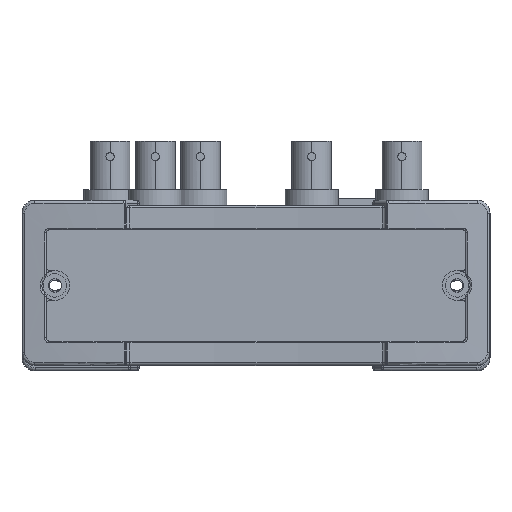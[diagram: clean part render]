
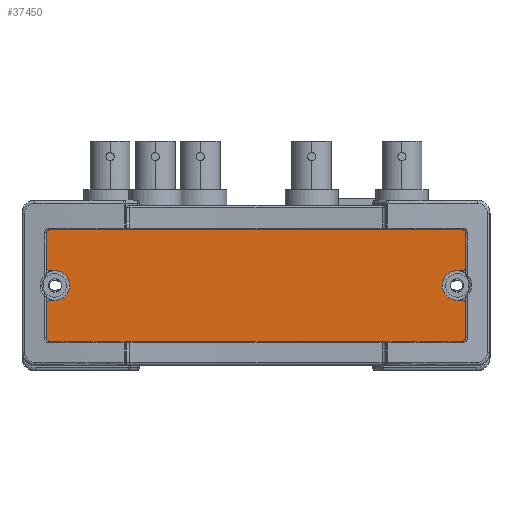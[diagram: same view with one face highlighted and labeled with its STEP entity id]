
A CAD part, front view. The second image highlights one B-rep face of the part: STEP entity #37450.
In plain terms, the highlighted planar face has unit normal (0, -1, 0).
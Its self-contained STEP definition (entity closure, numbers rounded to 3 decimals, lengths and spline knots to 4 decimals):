
#3501=DIRECTION('',(-1.,0.,0.));
#3502=VECTOR('',#3501,3.89);
#3503=CARTESIAN_POINT('',(3.395,-0.395,-0.423));
#3504=LINE('',#3503,#3502);
#3505=CARTESIAN_POINT('',(-0.495,-0.395,-0.393));
#3506=DIRECTION('',(0.,-1.,0.));
#3507=DIRECTION('',(-1.,0.,0.));
#3508=AXIS2_PLACEMENT_3D('',#3505,#3506,#3507);
#3510=DIRECTION('',(0.,0.,1.));
#3511=VECTOR('',#3510,0.325);
#3512=CARTESIAN_POINT('',(-0.525,-0.395,-0.393));
#3513=LINE('',#3512,#3511);
#3514=CARTESIAN_POINT('',(-0.495,-0.395,-0.068));
#3515=DIRECTION('',(0.,1.,0.));
#3516=DIRECTION('',(-1.,0.,0.));
#3517=AXIS2_PLACEMENT_3D('',#3514,#3515,#3516);
#3519=DIRECTION('',(1.,0.,0.));
#3520=VECTOR('',#3519,0.05);
#3521=CARTESIAN_POINT('',(-0.495,-0.395,-0.038));
#3522=LINE('',#3521,#3520);
#3523=CARTESIAN_POINT('',(-0.445,-0.395,0.102));
#3524=DIRECTION('',(0.,-1.,0.));
#3525=DIRECTION('',(0.,0.,-1.));
#3526=AXIS2_PLACEMENT_3D('',#3523,#3524,#3525);
#3528=DIRECTION('',(-1.,0.,0.));
#3529=VECTOR('',#3528,0.05);
#3530=CARTESIAN_POINT('',(-0.445,-0.395,0.242));
#3531=LINE('',#3530,#3529);
#3532=CARTESIAN_POINT('',(-0.495,-0.395,0.272));
#3533=DIRECTION('',(0.,-1.,0.));
#3534=DIRECTION('',(-1.,0.,0.));
#3535=AXIS2_PLACEMENT_3D('',#3532,#3533,#3534);
#3537=DIRECTION('',(0.,0.,1.));
#3538=VECTOR('',#3537,0.325);
#3539=CARTESIAN_POINT('',(-0.525,-0.395,0.272));
#3540=LINE('',#3539,#3538);
#3541=CARTESIAN_POINT('',(-0.495,-0.395,0.597));
#3542=DIRECTION('',(0.,-1.,0.));
#3543=DIRECTION('',(0.,0.,1.));
#3544=AXIS2_PLACEMENT_3D('',#3541,#3542,#3543);
#3546=DIRECTION('',(1.,0.,0.));
#3547=VECTOR('',#3546,3.89);
#3548=CARTESIAN_POINT('',(-0.495,-0.395,0.627));
#3549=LINE('',#3548,#3547);
#3550=CARTESIAN_POINT('',(3.395,-0.395,0.597));
#3551=DIRECTION('',(0.,-1.,0.));
#3552=DIRECTION('',(1.,0.,0.));
#3553=AXIS2_PLACEMENT_3D('',#3550,#3551,#3552);
#3555=DIRECTION('',(0.,0.,-1.));
#3556=VECTOR('',#3555,0.325);
#3557=CARTESIAN_POINT('',(3.425,-0.395,0.597));
#3558=LINE('',#3557,#3556);
#3559=CARTESIAN_POINT('',(3.395,-0.395,0.272));
#3560=DIRECTION('',(0.,1.,0.));
#3561=DIRECTION('',(1.,0.,0.));
#3562=AXIS2_PLACEMENT_3D('',#3559,#3560,#3561);
#3564=DIRECTION('',(-1.,0.,0.));
#3565=VECTOR('',#3564,0.05);
#3566=CARTESIAN_POINT('',(3.395,-0.395,0.242));
#3567=LINE('',#3566,#3565);
#3568=CARTESIAN_POINT('',(3.345,-0.395,0.102));
#3569=DIRECTION('',(0.,-1.,0.));
#3570=DIRECTION('',(0.,0.,1.));
#3571=AXIS2_PLACEMENT_3D('',#3568,#3569,#3570);
#3573=DIRECTION('',(1.,0.,0.));
#3574=VECTOR('',#3573,0.05);
#3575=CARTESIAN_POINT('',(3.345,-0.395,-0.038));
#3576=LINE('',#3575,#3574);
#3577=CARTESIAN_POINT('',(3.395,-0.395,-0.068));
#3578=DIRECTION('',(0.,-1.,0.));
#3579=DIRECTION('',(1.,0.,0.));
#3580=AXIS2_PLACEMENT_3D('',#3577,#3578,#3579);
#3582=DIRECTION('',(0.,0.,-1.));
#3583=VECTOR('',#3582,0.325);
#3584=CARTESIAN_POINT('',(3.425,-0.395,-0.068));
#3585=LINE('',#3584,#3583);
#3586=CARTESIAN_POINT('',(3.395,-0.395,-0.393));
#3587=DIRECTION('',(0.,-1.,0.));
#3588=DIRECTION('',(0.,0.,-1.));
#3589=AXIS2_PLACEMENT_3D('',#3586,#3587,#3588);
#32381=CARTESIAN_POINT('',(3.395,-0.395,-0.423));
#32382=CARTESIAN_POINT('',(-0.495,-0.395,-0.423));
#32383=VERTEX_POINT('',#32381);
#32384=VERTEX_POINT('',#32382);
#32385=CARTESIAN_POINT('',(-0.525,-0.395,-0.393));
#32386=CARTESIAN_POINT('',(-0.525,-0.395,-0.068));
#32387=VERTEX_POINT('',#32385);
#32388=VERTEX_POINT('',#32386);
#32389=CARTESIAN_POINT('',(-0.525,-0.395,0.272));
#32390=CARTESIAN_POINT('',(-0.525,-0.395,0.597));
#32391=VERTEX_POINT('',#32389);
#32392=VERTEX_POINT('',#32390);
#32393=CARTESIAN_POINT('',(-0.495,-0.395,0.627));
#32394=CARTESIAN_POINT('',(3.395,-0.395,0.627));
#32395=VERTEX_POINT('',#32393);
#32396=VERTEX_POINT('',#32394);
#32397=CARTESIAN_POINT('',(3.425,-0.395,0.597));
#32398=CARTESIAN_POINT('',(3.425,-0.395,0.272));
#32399=VERTEX_POINT('',#32397);
#32400=VERTEX_POINT('',#32398);
#32401=CARTESIAN_POINT('',(3.425,-0.395,-0.068));
#32402=CARTESIAN_POINT('',(3.425,-0.395,-0.393));
#32403=VERTEX_POINT('',#32401);
#32404=VERTEX_POINT('',#32402);
#32405=CARTESIAN_POINT('',(-0.495,-0.395,-0.038));
#32406=CARTESIAN_POINT('',(-0.445,-0.395,-0.038));
#32407=VERTEX_POINT('',#32405);
#32408=VERTEX_POINT('',#32406);
#32409=CARTESIAN_POINT('',(-0.445,-0.395,0.242));
#32410=VERTEX_POINT('',#32409);
#32411=CARTESIAN_POINT('',(-0.495,-0.395,0.242));
#32412=VERTEX_POINT('',#32411);
#32413=CARTESIAN_POINT('',(3.395,-0.395,0.242));
#32414=CARTESIAN_POINT('',(3.345,-0.395,0.242));
#32415=VERTEX_POINT('',#32413);
#32416=VERTEX_POINT('',#32414);
#32417=CARTESIAN_POINT('',(3.345,-0.395,-0.038));
#32418=VERTEX_POINT('',#32417);
#32419=CARTESIAN_POINT('',(3.395,-0.395,-0.038));
#32420=VERTEX_POINT('',#32419);
#37406=CARTESIAN_POINT('',(1.45,-0.395,0.102));
#37407=DIRECTION('',(0.,-1.,0.));
#37408=DIRECTION('',(-1.,0.,0.));
#37409=AXIS2_PLACEMENT_3D('',#37406,#37407,#37408);
#37410=PLANE('',#37409);
#37412=ORIENTED_EDGE('',*,*,#37411,.T.);
#37414=ORIENTED_EDGE('',*,*,#37413,.F.);
#37416=ORIENTED_EDGE('',*,*,#37415,.T.);
#37418=ORIENTED_EDGE('',*,*,#37417,.T.);
#37420=ORIENTED_EDGE('',*,*,#37419,.T.);
#37422=ORIENTED_EDGE('',*,*,#37421,.T.);
#37423=ORIENTED_EDGE('',*,*,#37397,.T.);
#37424=ORIENTED_EDGE('',*,*,#37371,.F.);
#37425=ORIENTED_EDGE('',*,*,#37358,.T.);
#37427=ORIENTED_EDGE('',*,*,#37426,.F.);
#37429=ORIENTED_EDGE('',*,*,#37428,.T.);
#37431=ORIENTED_EDGE('',*,*,#37430,.F.);
#37433=ORIENTED_EDGE('',*,*,#37432,.T.);
#37435=ORIENTED_EDGE('',*,*,#37434,.T.);
#37437=ORIENTED_EDGE('',*,*,#37436,.T.);
#37439=ORIENTED_EDGE('',*,*,#37438,.T.);
#37441=ORIENTED_EDGE('',*,*,#37440,.T.);
#37443=ORIENTED_EDGE('',*,*,#37442,.F.);
#37445=ORIENTED_EDGE('',*,*,#37444,.T.);
#37447=ORIENTED_EDGE('',*,*,#37446,.F.);
#37448=EDGE_LOOP('',(#37412,#37414,#37416,#37418,#37420,#37422,#37423,#37424,
#37425,#37427,#37429,#37431,#37433,#37435,#37437,#37439,#37441,#37443,#37445,
#37447));
#37449=FACE_OUTER_BOUND('',#37448,.F.);
#37450=ADVANCED_FACE('',(#37449),#37410,.T.);
#3509=CIRCLE('',#3508,0.03);
#3518=CIRCLE('',#3517,0.03);
#3527=CIRCLE('',#3526,0.14);
#3536=CIRCLE('',#3535,0.03);
#3545=CIRCLE('',#3544,0.03);
#3554=CIRCLE('',#3553,0.03);
#3563=CIRCLE('',#3562,0.03);
#3572=CIRCLE('',#3571,0.14);
#3581=CIRCLE('',#3580,0.03);
#3590=CIRCLE('',#3589,0.03);
#37358=EDGE_CURVE('',#32391,#32392,#3540,.T.);
#37371=EDGE_CURVE('',#32391,#32412,#3536,.T.);
#37397=EDGE_CURVE('',#32410,#32412,#3531,.T.);
#37411=EDGE_CURVE('',#32383,#32384,#3504,.T.);
#37413=EDGE_CURVE('',#32387,#32384,#3509,.T.);
#37415=EDGE_CURVE('',#32387,#32388,#3513,.T.);
#37417=EDGE_CURVE('',#32388,#32407,#3518,.T.);
#37419=EDGE_CURVE('',#32407,#32408,#3522,.T.);
#37421=EDGE_CURVE('',#32408,#32410,#3527,.T.);
#37426=EDGE_CURVE('',#32395,#32392,#3545,.T.);
#37428=EDGE_CURVE('',#32395,#32396,#3549,.T.);
#37430=EDGE_CURVE('',#32399,#32396,#3554,.T.);
#37432=EDGE_CURVE('',#32399,#32400,#3558,.T.);
#37434=EDGE_CURVE('',#32400,#32415,#3563,.T.);
#37436=EDGE_CURVE('',#32415,#32416,#3567,.T.);
#37438=EDGE_CURVE('',#32416,#32418,#3572,.T.);
#37440=EDGE_CURVE('',#32418,#32420,#3576,.T.);
#37442=EDGE_CURVE('',#32403,#32420,#3581,.T.);
#37444=EDGE_CURVE('',#32403,#32404,#3585,.T.);
#37446=EDGE_CURVE('',#32383,#32404,#3590,.T.);
